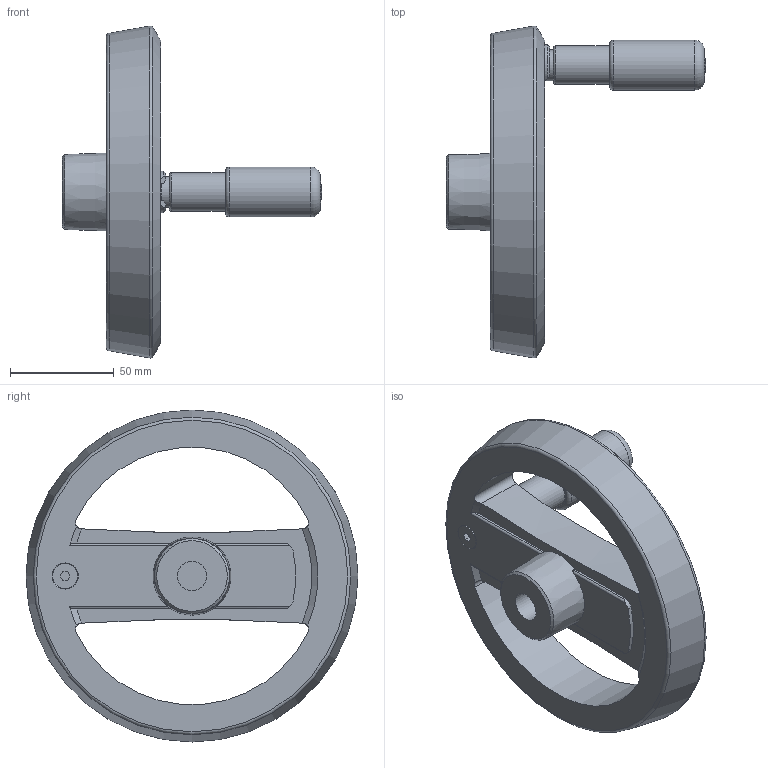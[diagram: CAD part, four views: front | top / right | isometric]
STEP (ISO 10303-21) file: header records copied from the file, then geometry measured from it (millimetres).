
FILE_DESCRIPTION( ( 'STEP AP203' ), '1' );
FILE_NAME( 'C:/Temp/Ganter_Step_05_03_2020/data/1_3/gn_924_7/gn_924_7_b/Handwheel with retractable handle GN 924.7-160-B14-R-SW (activated).stp', '2020-03-05T10:41:37', ( 'License CC BY-ND 4.0' ), ( 'CADENAS' ), ' ', 'PARTsolutions', ' ' );
FILE_SCHEMA( ( 'CONFIG_CONTROL_DESIGN' ) );
Length unit declared in the file: millimetre
Products named in the file (3): Handwheel with retractable handle GN 924.7-160-B14-R-SW (activated); _Umleggriff-Handrad GN 924.7-160-B14-R-SW-1; _Umleggriff-Handrad GN 924.7-160-B14-R-SW (90)-2
Assembly tree (2 placements, depth 2):
  Handwheel with retractable handle GN 924.7-160-B14-R-SW (activated)
    _Umleggriff-Handrad GN 924.7-160-B14-R-SW-1
    _Umleggriff-Handrad GN 924.7-160-B14-R-SW (90)-2
Bounding box: 124.7 x 159.68 x 159.68 mm (x, y, z)
Volume: 295394.5 mm3; surface area: 66095.9 mm2
Topology: 2 solids, 2 shells, 108 faces, 278 edges, 179 vertices
Faces by surface type: plane 44, cylinder 42, cone 12, torus 8, sphere 2
Full cylindrical faces by diameter (mm): 4 x4, 5 x1, 8 x1, 12 x1, 14 x1, 15 x1, 18.5 x1, 20 x1, 24 x2, 25.6 x1
Entity records: 3572 total; most frequent: CARTESIAN_POINT 996, DIRECTION 516, ORIENTED_EDGE 478, EDGE_CURVE 239, AXIS2_PLACEMENT_3D 217, VERTEX_POINT 173, EDGE_LOOP 151, FACE_OUTER_BOUND 129
